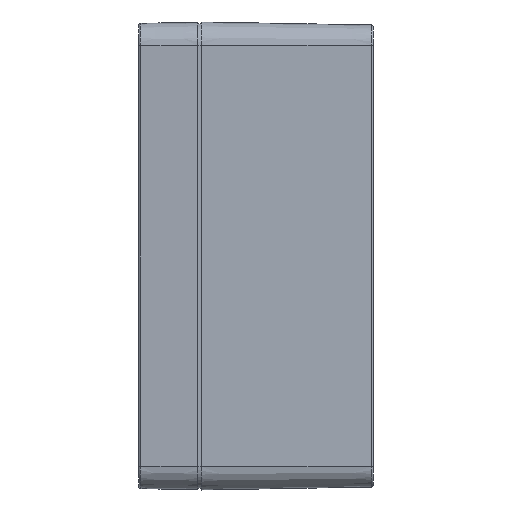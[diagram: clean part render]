
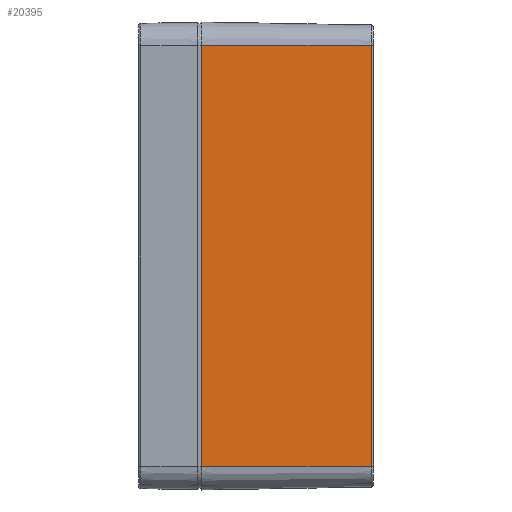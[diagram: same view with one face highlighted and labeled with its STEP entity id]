
A CAD part, left-side view. The second image highlights one B-rep face of the part: STEP entity #20395.
In plain terms, the highlighted planar face has unit normal (-1, -0.018, 0).
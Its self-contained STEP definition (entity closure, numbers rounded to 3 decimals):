
#450 = CARTESIAN_POINT ( 'NONE',  ( -60.1, 0., 54.1 ) ) ;
#2185 = CARTESIAN_POINT ( 'NONE',  ( -59.321, -44.609, -54.1 ) ) ;
#3365 = DIRECTION ( 'NONE',  ( -0.017, 1., 0. ) ) ;
#4672 = CARTESIAN_POINT ( 'NONE',  ( -60.083, -1., 54.1 ) ) ;
#7665 = EDGE_CURVE ( 'NONE', #28691, #22480, #12108, .T. ) ;
#7733 = VERTEX_POINT ( 'NONE', #2185 ) ;
#10020 = DIRECTION ( 'NONE',  ( 0., 0., 1. ) ) ;
#10499 = LINE ( 'NONE', #17904, #38335 ) ;
#10840 = VECTOR ( 'NONE', #21374, 1000. ) ;
#12108 = LINE ( 'NONE', #15142, #30384 ) ;
#14816 = FACE_OUTER_BOUND ( 'NONE', #17192, .T. ) ;
#15142 = CARTESIAN_POINT ( 'NONE',  ( -60.083, -1., 54.1 ) ) ;
#16970 = ORIENTED_EDGE ( 'NONE', *, *, #22222, .T. ) ;
#17192 = EDGE_LOOP ( 'NONE', ( #16970, #34971, #17533, #23327 ) ) ;
#17491 = LINE ( 'NONE', #42693, #39090 ) ;
#17533 = ORIENTED_EDGE ( 'NONE', *, *, #29411, .F. ) ;
#17904 = CARTESIAN_POINT ( 'NONE',  ( -59.321, -44.609, 54.1 ) ) ;
#18422 = CARTESIAN_POINT ( 'NONE',  ( -59.321, -44.609, 54.1 ) ) ;
#20395 = ADVANCED_FACE ( 'NONE', ( #14816 ), #43023, .T. ) ;
#21315 = DIRECTION ( 'NONE',  ( -1., -0.017, 0. ) ) ;
#21374 = DIRECTION ( 'NONE',  ( -0.017, 1., 0. ) ) ;
#21500 = EDGE_CURVE ( 'NONE', #7733, #38823, #10499, .T. ) ;
#22222 = EDGE_CURVE ( 'NONE', #38823, #28691, #17491, .T. ) ;
#22480 = VERTEX_POINT ( 'NONE', #25746 ) ;
#23327 = ORIENTED_EDGE ( 'NONE', *, *, #21500, .T. ) ;
#25042 = LINE ( 'NONE', #39586, #10840 ) ;
#25746 = CARTESIAN_POINT ( 'NONE',  ( -60.083, -1., -54.1 ) ) ;
#27937 = AXIS2_PLACEMENT_3D ( 'NONE', #450, #21315, #38422 ) ;
#28691 = VERTEX_POINT ( 'NONE', #4672 ) ;
#29411 = EDGE_CURVE ( 'NONE', #7733, #22480, #25042, .T. ) ;
#30384 = VECTOR ( 'NONE', #35971, 1000. ) ;
#34971 = ORIENTED_EDGE ( 'NONE', *, *, #7665, .T. ) ;
#35971 = DIRECTION ( 'NONE',  ( 0., 0., -1. ) ) ;
#38335 = VECTOR ( 'NONE', #10020, 1000. ) ;
#38422 = DIRECTION ( 'NONE',  ( 0.017, -1., 0. ) ) ;
#38823 = VERTEX_POINT ( 'NONE', #18422 ) ;
#39090 = VECTOR ( 'NONE', #3365, 1000. ) ;
#39586 = CARTESIAN_POINT ( 'NONE',  ( -60.1, 0., -54.1 ) ) ;
#42693 = CARTESIAN_POINT ( 'NONE',  ( -60.1, 0., 54.1 ) ) ;
#43023 = PLANE ( 'NONE',  #27937 ) ;
